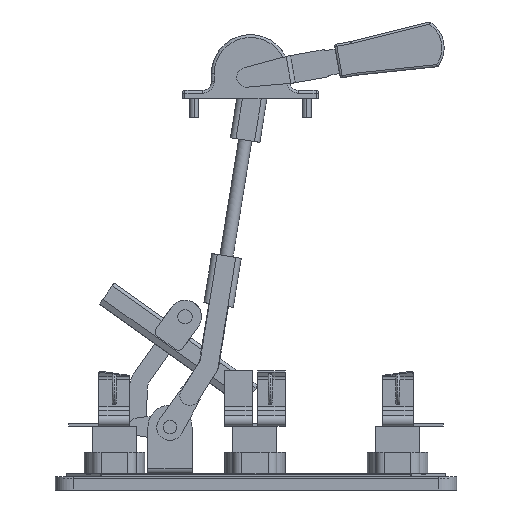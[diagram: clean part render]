
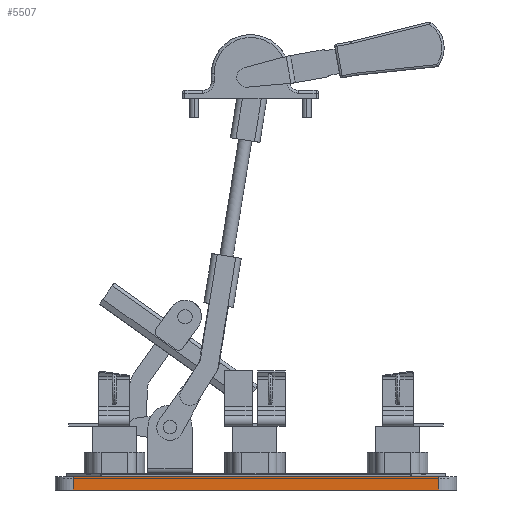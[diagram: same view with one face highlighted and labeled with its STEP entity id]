
A CAD part, left-side view. The second image highlights one B-rep face of the part: STEP entity #5507.
In plain terms, the highlighted planar face has unit normal (-1, 0, 0).
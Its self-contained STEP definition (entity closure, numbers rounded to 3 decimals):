
#282 = CARTESIAN_POINT ( 'NONE',  ( -132., 87.8, -3. ) ) ;
#1397 = LINE ( 'NONE', #26115, #47118 ) ;
#1806 = VERTEX_POINT ( 'NONE', #12533 ) ;
#2372 = VECTOR ( 'NONE', #49236, 1000. ) ;
#3638 = VERTEX_POINT ( 'NONE', #39436 ) ;
#5507 = ADVANCED_FACE ( 'NONE', ( #49444 ), #52023, .T. ) ;
#9799 = DIRECTION ( 'NONE',  ( 0., -1., 0. ) ) ;
#11596 = CARTESIAN_POINT ( 'NONE',  ( -132., -243.8, -15. ) ) ;
#12533 = CARTESIAN_POINT ( 'NONE',  ( -132., 87.8, -15. ) ) ;
#12944 = LINE ( 'NONE', #30304, #18265 ) ;
#14209 = DIRECTION ( 'NONE',  ( -1., 0., 0. ) ) ;
#15090 = ORIENTED_EDGE ( 'NONE', *, *, #40739, .F. ) ;
#18102 = DIRECTION ( 'NONE',  ( 0., 0., -1. ) ) ;
#18258 = CARTESIAN_POINT ( 'NONE',  ( -132., -243.8, -15. ) ) ;
#18265 = VECTOR ( 'NONE', #47178, 1000. ) ;
#19964 = ORIENTED_EDGE ( 'NONE', *, *, #41889, .T. ) ;
#22284 = LINE ( 'NONE', #11596, #2372 ) ;
#25543 = LINE ( 'NONE', #30891, #37497 ) ;
#26115 = CARTESIAN_POINT ( 'NONE',  ( -132., 87.8, -15. ) ) ;
#26246 = AXIS2_PLACEMENT_3D ( 'NONE', #26464, #14209, #9799 ) ;
#26464 = CARTESIAN_POINT ( 'NONE',  ( -132., 104., -15. ) ) ;
#28139 = EDGE_CURVE ( 'NONE', #54523, #3638, #22284, .T. ) ;
#29033 = EDGE_LOOP ( 'NONE', ( #15090, #19964, #49955, #44051 ) ) ;
#30304 = CARTESIAN_POINT ( 'NONE',  ( -132., 104., -3. ) ) ;
#30348 = DIRECTION ( 'NONE',  ( 0., -1., 0. ) ) ;
#30891 = CARTESIAN_POINT ( 'NONE',  ( -132., 104., -15. ) ) ;
#37497 = VECTOR ( 'NONE', #30348, 1000. ) ;
#38813 = VERTEX_POINT ( 'NONE', #282 ) ;
#39436 = CARTESIAN_POINT ( 'NONE',  ( -132., -243.8, -3. ) ) ;
#40739 = EDGE_CURVE ( 'NONE', #38813, #3638, #12944, .T. ) ;
#41889 = EDGE_CURVE ( 'NONE', #38813, #1806, #1397, .T. ) ;
#44051 = ORIENTED_EDGE ( 'NONE', *, *, #28139, .T. ) ;
#46154 = EDGE_CURVE ( 'NONE', #1806, #54523, #25543, .T. ) ;
#47118 = VECTOR ( 'NONE', #18102, 1000. ) ;
#47178 = DIRECTION ( 'NONE',  ( 0., -1., 0. ) ) ;
#49236 = DIRECTION ( 'NONE',  ( 0., 0., 1. ) ) ;
#49444 = FACE_OUTER_BOUND ( 'NONE', #29033, .T. ) ;
#49955 = ORIENTED_EDGE ( 'NONE', *, *, #46154, .T. ) ;
#52023 = PLANE ( 'NONE',  #26246 ) ;
#54523 = VERTEX_POINT ( 'NONE', #18258 ) ;
